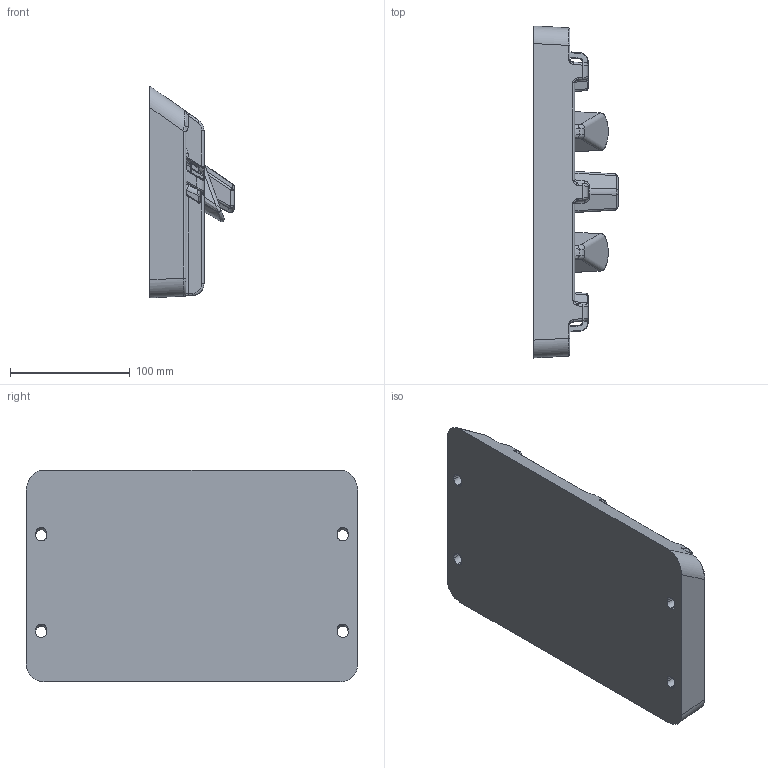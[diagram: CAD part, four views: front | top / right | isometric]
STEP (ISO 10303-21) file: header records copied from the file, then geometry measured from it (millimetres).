
FILE_DESCRIPTION((''),'2;1');
FILE_NAME('X_BLOCK_2019MAG31_B_PORTACUNEO','2020-05-25T',('Fabio Bertoldini'),(''),'CREO PARAMETRIC BY PTC INC, 2014500','CREO PARAMETRIC BY PTC INC, 2014500','');
FILE_SCHEMA(('CONFIG_CONTROL_DESIGN'));
Products named in the file (1): X_BLOCK_2019MAG31_B_PORTACUNEO
Bounding box: 70.49 x 276.93 x 176.84 mm (x, y, z)
Volume: 1522006.3 mm3; surface area: 154680.6 mm2
Topology: 1 solids, 1 shells, 892 faces, 2254 edges, 1312 vertices
Faces by surface type: cylinder 340, bspline 328, plane 186, sphere 14, extrusion 14, torus 10
Entity records: 51259 total; most frequent: CARTESIAN_POINT 32751, ORIENTED_EDGE 4412, DIRECTION 2870, EDGE_CURVE 2206, VERTEX_POINT 1312, AXIS2_PLACEMENT_3D 986, EDGE_LOOP 900, B_SPLINE_CURVE_WITH_KNOTS 900
